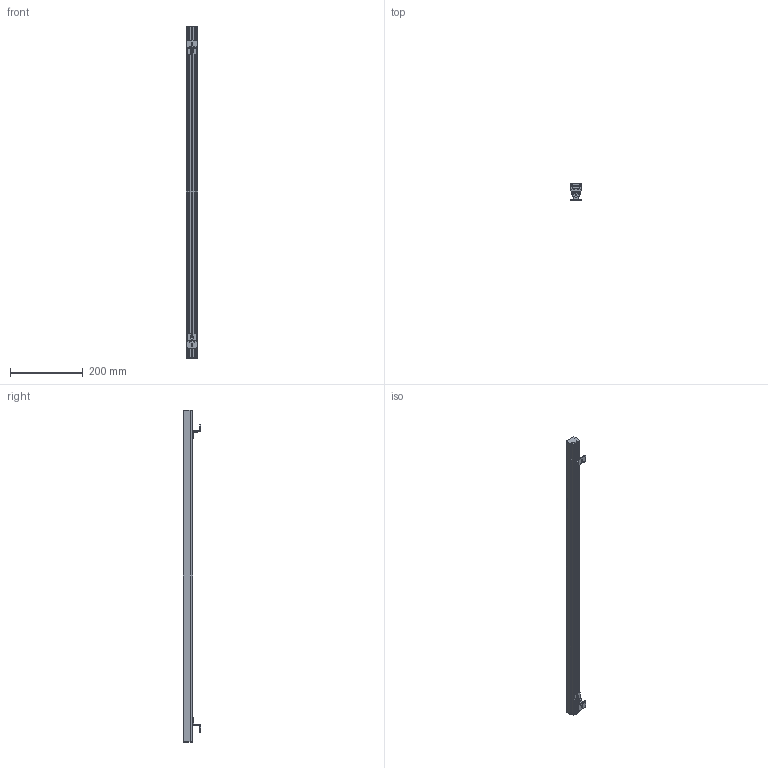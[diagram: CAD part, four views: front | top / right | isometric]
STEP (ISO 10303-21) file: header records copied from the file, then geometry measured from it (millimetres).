
FILE_DESCRIPTION (( 'STEP AP203' ), '1' );
FILE_NAME ('FACADE 910.STEP', '2023-03-23T14:26:06', ( '' ), ( '' ), 'SwSTEP 2.0', 'SolidWorks 2016', '' );
FILE_SCHEMA (( 'CONFIG_CONTROL_DESIGN' ));
Length unit declared in the file: millimetre
Products named in the file (7): Estruso 910; Striscia x 910; FACADE 910; 0-WKL-0109-0-00; 0-BLX-0414-0-00; 0-BLX-0413-0-00; resina -910
Assembly tree (9 placements, depth 2):
  FACADE 910
    0-BLX-0414-0-00  x2
    0-BLX-0413-0-00  x2
    Estruso 910
    resina -910
    Striscia x 910
    0-WKL-0109-0-00  x2
Bounding box: 30.36 x 47.51 x 914 mm (x, y, z)
Volume: 790823.5 mm3; surface area: 294666.5 mm2
Topology: 9 solids, 9 shells, 965 faces, 2382 edges, 1482 vertices
Faces by surface type: plane 461, cylinder 346, torus 132, bspline 14, cone 12
Entity records: 24566 total; most frequent: CARTESIAN_POINT 4377, DIRECTION 4315, ORIENTED_EDGE 3906, EDGE_CURVE 1953, AXIS2_PLACEMENT_3D 1571, VERTEX_POINT 1205, VECTOR 1173, LINE 1173
